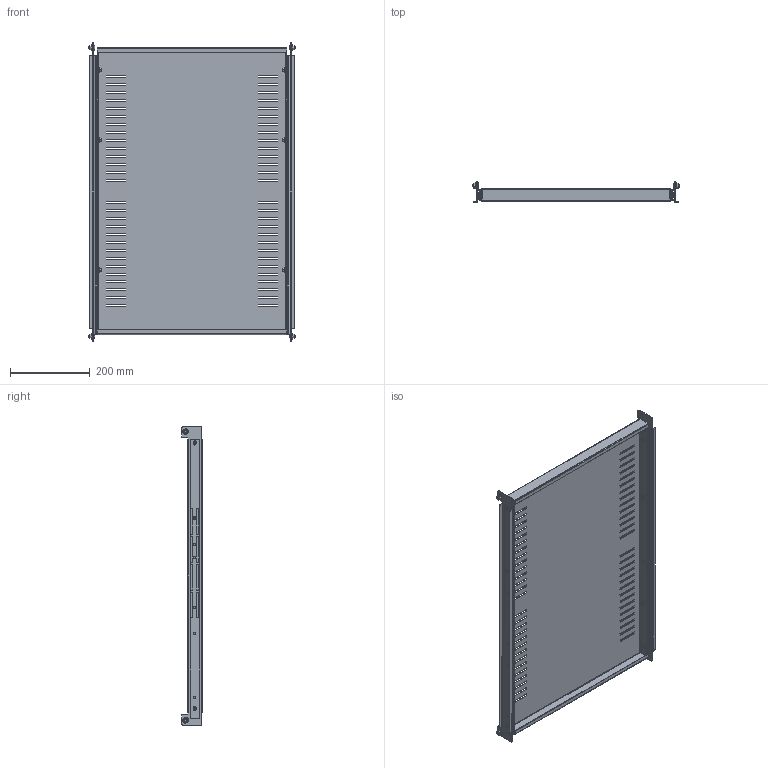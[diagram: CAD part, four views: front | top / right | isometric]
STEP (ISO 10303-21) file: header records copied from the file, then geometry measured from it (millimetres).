
FILE_DESCRIPTION (( 'STEP AP203' ), '1' );
FILE_NAME ('R5RE680.STEP', '2019-08-07T13:30:42', ( '' ), ( '' ), 'SwSTEP 2.0', 'SolidWorks 2017', '' );
FILE_SCHEMA (( 'CONFIG_CONTROL_DESIGN' ));
Length unit declared in the file: millimetre
Products named in the file (58): A3300001; BINARIO GUIDA; GUIDA 700 PARTE FISSA; A6100298; A3300002; AC00C274; R5RE680; QB09C412; GUIDA 700 PARTE  MOBILE; A1100001; AC00C274_AC00C274; QB09C412_QB09C412; QB09C410_QB09C410; QB09C410
Assembly tree (43 placements, depth 3):
  A3300001
  BINARIO GUIDA
  A3300001
  BINARIO GUIDA
  A3300002
Bounding box: 520 x 52.49 x 750 mm (x, y, z)
Volume: 817321.8 mm3; surface area: 1234647.3 mm2
Topology: 47 solids, 47 shells, 1842 faces, 4876 edges, 3156 vertices
Faces by surface type: plane 1046, cylinder 260, cone 248, sphere 240, torus 48
Entity records: 24573 total; most frequent: CARTESIAN_POINT 3501, ORIENTED_EDGE 3180, DIRECTION 3148, EDGE_CURVE 1590, LINE 1206, VECTOR 1206, VERTEX_POINT 1034, AXIS2_PLACEMENT_3D 971
